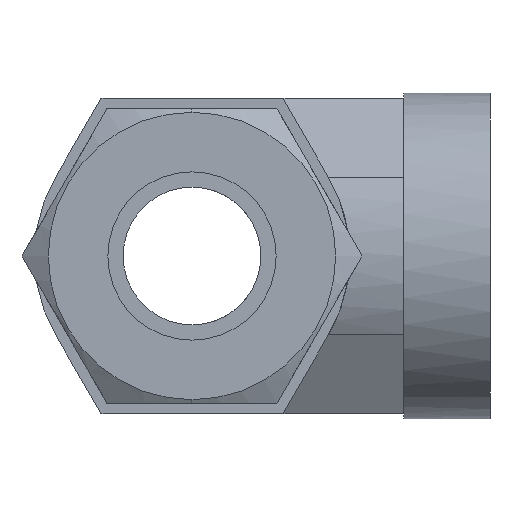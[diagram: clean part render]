
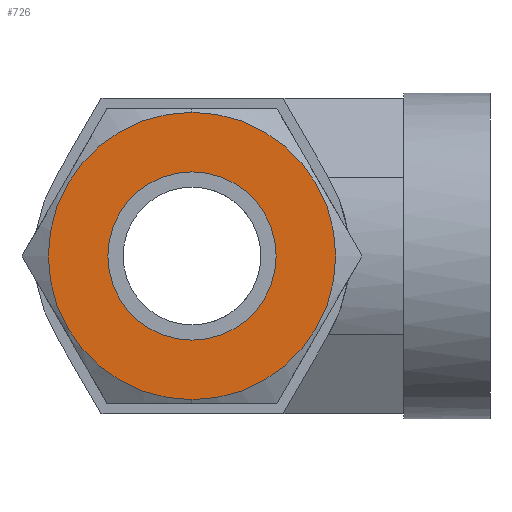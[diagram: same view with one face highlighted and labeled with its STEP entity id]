
A CAD part, left-side view. The second image highlights one B-rep face of the part: STEP entity #726.
In plain terms, the highlighted planar face has unit normal (-1, 0, 0).
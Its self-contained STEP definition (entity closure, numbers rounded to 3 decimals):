
#255 = VERTEX_POINT ( 'NONE', #1530 ) ;
#256 = EDGE_CURVE ( 'NONE', #275, #257, #1525, .T. ) ;
#257 = VERTEX_POINT ( 'NONE', #1520 ) ;
#259 = VERTEX_POINT ( 'NONE', #1519 ) ;
#274 = EDGE_CURVE ( 'NONE', #259, #255, #1545, .T. ) ;
#275 = VERTEX_POINT ( 'NONE', #1540 ) ;
#648 = EDGE_LOOP ( 'NONE', ( #649, #704 ) ) ;
#649 = ORIENTED_EDGE ( 'NONE', *, *, #703, .F. ) ;
#703 = EDGE_CURVE ( 'NONE', #257, #275, #2389, .T. ) ;
#704 = ORIENTED_EDGE ( 'NONE', *, *, #256, .F. ) ;
#705 = EDGE_LOOP ( 'NONE', ( #706, #707 ) ) ;
#706 = ORIENTED_EDGE ( 'NONE', *, *, #274, .T. ) ;
#707 = ORIENTED_EDGE ( 'NONE', *, *, #708, .T. ) ;
#708 = EDGE_CURVE ( 'NONE', #255, #259, #2385, .T. ) ;
#726 = ADVANCED_FACE ( 'NONE', ( #2419, #2418 ), #2417, .T. ) ;
#1519 = CARTESIAN_POINT ( 'NONE',  ( -36.4, 0., -10.85 ) ) ;
#1520 = CARTESIAN_POINT ( 'NONE',  ( -36.4, 0., -6.35 ) ) ;
#1521 = DIRECTION ( 'NONE',  ( 0., 0., -1. ) ) ;
#1522 = DIRECTION ( 'NONE',  ( -1., 0., 0. ) ) ;
#1523 = CARTESIAN_POINT ( 'NONE',  ( -36.4, 0., 0. ) ) ;
#1524 = AXIS2_PLACEMENT_3D ( 'NONE', #1523, #1522, #1521 ) ;
#1525 = CIRCLE ( 'NONE', #1524, 6.35 ) ;
#1530 = CARTESIAN_POINT ( 'NONE',  ( -36.4, 0., 10.85 ) ) ;
#1540 = CARTESIAN_POINT ( 'NONE',  ( -36.4, 0., 6.35 ) ) ;
#1541 = DIRECTION ( 'NONE',  ( 0., 0., -1. ) ) ;
#1542 = DIRECTION ( 'NONE',  ( -1., 0., 0. ) ) ;
#1543 = CARTESIAN_POINT ( 'NONE',  ( -36.4, 0., 0. ) ) ;
#1544 = AXIS2_PLACEMENT_3D ( 'NONE', #1543, #1542, #1541 ) ;
#1545 = CIRCLE ( 'NONE', #1544, 10.85 ) ;
#2324 = CARTESIAN_POINT ( 'NONE',  ( -36.4, 0., 0. ) ) ;
#2381 = DIRECTION ( 'NONE',  ( 0., 0., -1. ) ) ;
#2382 = DIRECTION ( 'NONE',  ( -1., 0., 0. ) ) ;
#2383 = CARTESIAN_POINT ( 'NONE',  ( -36.4, 0., 0. ) ) ;
#2384 = AXIS2_PLACEMENT_3D ( 'NONE', #2383, #2382, #2381 ) ;
#2385 = CIRCLE ( 'NONE', #2384, 10.85 ) ;
#2386 = DIRECTION ( 'NONE',  ( 0., 0., -1. ) ) ;
#2387 = DIRECTION ( 'NONE',  ( -1., 0., 0. ) ) ;
#2388 = AXIS2_PLACEMENT_3D ( 'NONE', #2324, #2387, #2386 ) ;
#2389 = CIRCLE ( 'NONE', #2388, 6.35 ) ;
#2412 = DIRECTION ( 'NONE',  ( 0., 0., -1. ) ) ;
#2413 = DIRECTION ( 'NONE',  ( -1., 0., 0. ) ) ;
#2414 = AXIS2_PLACEMENT_3D ( 'NONE', #2416, #2413, #2412 ) ;
#2416 = CARTESIAN_POINT ( 'NONE',  ( -36.4, -12.834, 0. ) ) ;
#2417 = PLANE ( 'NONE',  #2414 ) ;
#2418 = FACE_OUTER_BOUND ( 'NONE', #705, .T. ) ;
#2419 = FACE_BOUND ( 'NONE', #648, .T. ) ;
